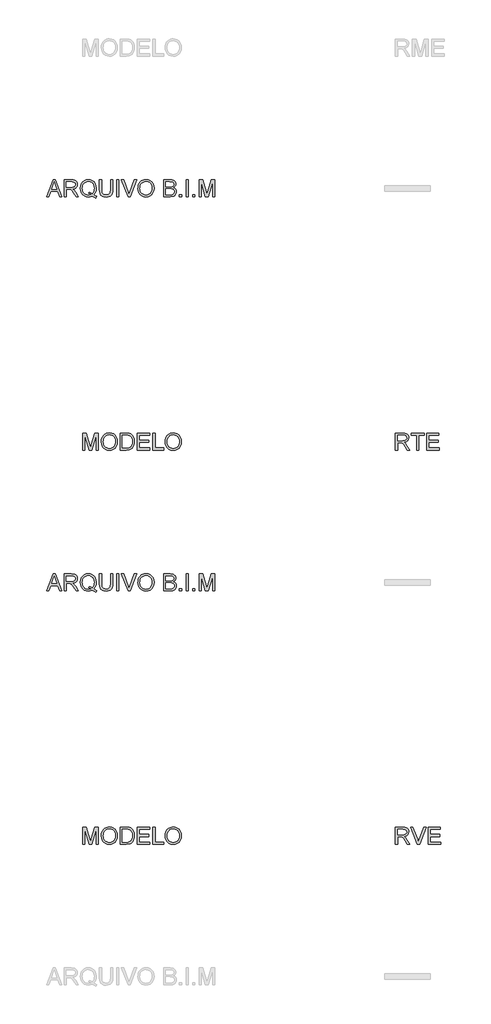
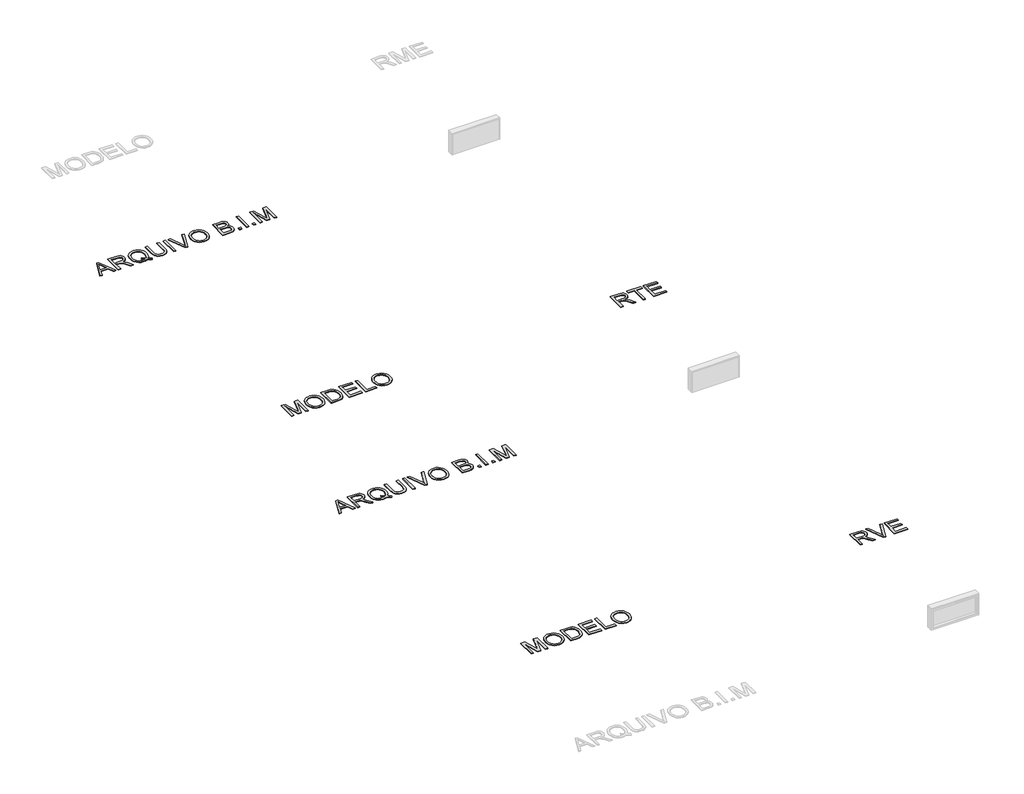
# One storey, part 3 of 15: 6 proxies.
"""IFC4 building model written with IfcOpenShell, lengths in millimetres."""

from ifc_helpers import new_model, si_unit, origin, origin_with_axes, place, context, project, spatial, polyline, outline, extrude, element, save

model = new_model("IFC4")

# Units and contexts
model_context = context("Model", 3, world=origin())
ifc_project = project(units=[si_unit("LENGTHUNIT", "METRE", prefix="MILLI")], contexts=[model_context])

# Site, building, storey
site = spatial("IfcSite", under=ifc_project)
building = spatial("IfcBuilding", under=site)
storey = spatial("IfcBuildingStorey", under=building, Name="Marelli - Linha REASONS - Planta Baixa", Elevation=0.0)

# Proxies
placement = place(None, origin())
element("IfcBuildingElementProxy", 1, Name="300mm Arial", ObjectType="300mm Arial", at=placement, inside=storey, context=model_context, shape_type="SweptSolid", body=[
    extrude(outline(polyline([(9390.580402, -147280.5663201), (9510.8778144, -146979.1973896), (9542.9571244, -146979.1973896), (9663.2545368, -147280.5663201), (9623.449705, -147280.5663201), (9588.9423738, -147186.3885293), (9464.8189886, -147186.3885293), (9430.3852339, -147280.5663201), (9390.580402, -147280.5663201)]), holes=[polyline([(9478.6513517, -147148.717413), (9575.1835872, -147148.717413), (9548.0338959, -147074.6259792), (9526.9174694, -147016.8685059), (9508.1554877, -147068.1512561), (9478.6513517, -147148.717413)])]), origin_with_axes(), (0.0, 0.0, 1.0), 10.0),
    extrude(outline(polyline([(9703.5008271, -147280.5663201), (9703.5008271, -146979.1973896), (9833.3631714, -146979.1973896), (9868.2659757, -146981.2299376), (9893.6590304, -146987.3275817), (9912.2186771, -146998.5847708), (9926.6212572, -147016.0959537), (9935.8642923, -147037.8101885), (9938.945304, -147061.6765329), (9933.8409413, -147091.3646099), (9918.5278533, -147115.9759154), (9906.9280741, -147126.0052983), (9892.5461874, -147134.0205273), (9855.4360911, -147144.0085235), (9876.8468232, -147160.1217548), (9907.3810288, -147198.8965171), (9957.6337094, -147280.5663201), (9913.855752, -147280.5663201), (9874.6395313, -147218.0999573), (9846.3126176, -147176.750021), (9826.4102017, -147157.2154871), (9808.4943485, -147150.0417882), (9786.642158, -147148.717413), (9741.1719434, -147148.717413), (9741.1719434, -147280.5663201), (9703.5008271, -147280.5663201)]), holes=[polyline([(9741.1719434, -147111.0462967), (9825.4904967, -147111.0462967), (9849.706329, -147109.7127245), (9868.4959019, -147105.7120078), (9882.6409647, -147098.7774322), (9892.9232664, -147088.6422832), (9899.1864574, -147076.3826157), (9901.2741877, -147063.0744845), (9897.2918651, -147044.6987789), (9885.3448973, -147029.8915286), (9864.7894908, -147020.1242616), (9834.9818522, -147016.8685059), (9741.1719434, -147016.8685059), (9741.1719434, -147111.0462967)])]), origin_with_axes(), (0.0, 0.0, 1.0), 10.0),
    extrude(outline(polyline([(10231.2643374, -147244.4403081), (10255.5997314, -147263.036743), (10277.9853508, -147275.8574305), (10267.8318077, -147303.4485802), (10236.7641732, -147289.0460001), (10205.8069033, -147268.205485), (10170.9500843, -147281.0077785), (10132.5983863, -147285.2752096), (10094.0627473, -147280.3547879), (10059.2427164, -147265.5935229), (10030.0788713, -147241.9203165), (10008.5117893, -147210.2640708), (9995.185264, -147172.3630282), (9990.7430889, -147129.9554312), (9995.176067, -147087.511046), (10008.4750011, -147049.0581805), (10029.9593096, -147016.9512794), (10058.9484108, -146993.5447874), (10093.639683, -146979.2525719), (10132.2305043, -146974.4885001), (10171.1248282, -146979.3629365), (10205.9908443, -146993.9862458), (10234.9339603, -147017.3835407), (10256.0595839, -147048.5799339), (10268.9722419, -147085.9199564), (10273.2764612, -147127.7481393), (10270.6644991, -147162.5313819), (10262.8286126, -147193.5990164), (10249.7136194, -147220.9142546), (10231.2643374, -147244.4403081)]), holes=[polyline([(10142.9726585, -147194.3347804), (10174.6472983, -147206.3093393), (10200.215097, -147222.9559996), (10215.6983305, -147205.4816049), (10226.7577829, -147184.1076609), (10233.3934544, -147158.8341679), (10235.6053449, -147129.6611256), (10232.478348, -147096.5057608), (10223.0973571, -147067.8201623), (10207.6922985, -147044.3308969), (10186.4930986, -147026.7645316), (10160.934497, -147015.8108452), (10132.4512335, -147012.1596164), (10110.966925, -147014.0059242), (10091.3956028, -147019.5448474), (10073.7372671, -147028.7763863), (10057.9919177, -147041.7005406), (10045.0516685, -147058.2897193), (10035.8086334, -147078.5163313), (10030.2628123, -147102.3803764), (10028.4142052, -147129.8818548), (10030.2421189, -147156.6659634), (10035.7258599, -147180.1437324), (10044.8654282, -147200.3151621), (10057.6608239, -147217.1802523), (10073.2981079, -147230.4906827), (10090.9633415, -147239.9981331), (10110.6565245, -147245.7026032), (10132.3776571, -147247.6040933), (10153.2917485, -147245.6727128), (10172.918253, -147239.8785714), (10153.6228423, -147229.853787), (10133.2605739, -147223.1767288), (10142.9726585, -147194.3347804)])]), origin_with_axes(), (0.0, 0.0, 1.0), 10.0),
    extrude(outline(polyline([(10527.5564963, -146979.1973896), (10565.2276126, -146979.1973896), (10565.2276126, -147153.0584205), (10562.6708327, -147193.7737604), (10555.0004931, -147225.1265034), (10540.6714894, -147249.3147446), (10518.1387172, -147268.5365788), (10487.3469942, -147281.0905519), (10448.2411381, -147285.2752096), (10409.9906077, -147281.6331779), (10379.4104168, -147270.7070826), (10356.4913685, -147252.8740029), (10341.2242657, -147228.5110178), (10332.6434182, -147195.8338995), (10329.7831357, -147153.0584205), (10329.7831357, -146979.1973896), (10367.454252, -146979.1973896), (10367.454252, -147151.7340454), (10369.3120561, -147185.588386), (10374.8854683, -147209.1604248), (10384.9838291, -147225.4851883), (10400.4164788, -147237.597703), (10420.5396239, -147245.1024957), (10444.709471, -147247.6040933), (10483.0243808, -147242.6560805), (10497.3671801, -147236.4710644), (10508.500209, -147227.812042), (10516.8373347, -147215.6351479), (10522.7924245, -147198.8965171), (10527.5564963, -147151.7340454), (10527.5564963, -146979.1973896)])), origin_with_axes(), (0.0, 0.0, 1.0), 10.0),
    extrude(outline(polyline([(10635.8609557, -147280.5663201), (10635.8609557, -146979.1973896), (10673.532072, -146979.1973896), (10673.532072, -147280.5663201), (10635.8609557, -147280.5663201)])), origin_with_axes(), (0.0, 0.0, 1.0), 10.0),
    extrude(outline(polyline([(10837.9017474, -147280.5663201), (10717.972217, -146979.1973896), (10758.2920837, -146979.1973896), (10838.563935, -147196.3213432), (10854.8243192, -147245.2496485), (10870.8639742, -147196.3213432), (10951.3565547, -146979.1973896), (10991.6764214, -146979.1973896), (10876.8236625, -147280.5663201), (10837.9017474, -147280.5663201)])), origin_with_axes(), (0.0, 0.0, 1.0), 10.0),
    extrude(outline(polyline([(11012.5721187, -147133.8549804), (11015.0829134, -147098.5061192), (11022.6152972, -147067.213157), (11035.1692703, -147039.9760937), (11052.7448326, -147016.7949295), (11074.288922, -146998.2858666), (11098.7484761, -146985.0651074), (11126.1234951, -146977.1326519), (11156.4139789, -146974.4885001), (11195.9428992, -146979.454907), (11231.3883295, -146994.3541278), (11260.8188891, -147018.1376988), (11282.3031976, -147049.7571563), (11295.4365848, -147087.68579), (11299.8143806, -147130.3968896), (11295.2066586, -147173.6782064), (11281.3834926, -147212.140269), (11259.1082378, -147243.8149088), (11229.1442493, -147266.733957), (11194.0023217, -147280.6398965), (11156.1932497, -147285.2752096), (11116.057324, -147280.1524528), (11080.4095587, -147264.7841825), (11051.0525754, -147240.5591531), (11029.7889961, -147208.8661192), (11016.8763381, -147172.3998164), (11012.5721187, -147133.8549804)]), holes=[polyline([(11050.2432351, -147134.2228624), (11052.126331, -147159.1974513), (11057.7756189, -147181.3669401), (11067.1910987, -147200.7313286), (11080.3727705, -147217.2906169), (11096.3963306, -147230.5527628), (11114.3374757, -147240.0257242), (11134.1962056, -147245.709501), (11155.9725205, -147247.6040933), (11178.1213158, -147245.6911069), (11198.2145706, -147239.9521478), (11216.2522846, -147230.3872159), (11232.2344581, -147216.9963113), (11245.3195608, -147200.0875351), (11254.6660627, -147179.9689885), (11260.2739639, -147156.6406715), (11262.1432643, -147130.102584), (11258.9426909, -147096.7540812), (11249.3409708, -147067.9305269), (11233.5864244, -147044.358488), (11211.9273719, -147026.7645316), (11185.7985532, -147015.8108452), (11156.6347081, -147012.1596164), (11135.6148506, -147013.9185522), (11116.1125063, -147019.1953595), (11098.1276752, -147027.9900385), (11081.6603574, -147040.302589), (11067.9153664, -147056.7262208), (11058.0975156, -147077.8541437), (11052.2068052, -147103.6863575), (11050.2432351, -147134.2228624)])]), origin_with_axes(), (0.0, 0.0, 1.0), 10.0),
    extrude(outline(polyline([(11469.334404, -147280.5663201), (11469.334404, -146979.1973896), (11584.3343156, -146979.1973896), (11615.9629702, -146981.4138786), (11640.6570491, -146988.0633457), (11659.5845778, -146999.3113377), (11673.9135815, -147015.3234015), (11682.9358874, -147034.1589597), (11685.9433227, -147053.8774346), (11683.414134, -147072.0232141), (11675.8265679, -147089.0837416), (11663.125442, -147104.0105535), (11645.2555741, -147115.7551862), (11666.6019268, -147126.9020107), (11682.3748674, -147143.8613707), (11692.1145432, -147165.5112261), (11695.3611018, -147190.7295368), (11693.1446128, -147211.7447958), (11686.4951457, -147231.2333445), (11676.5715289, -147247.8064284), (11664.5325906, -147260.0752929), (11649.7897196, -147268.9596431), (11631.7543048, -147275.3791839), (11583.4513989, -147280.5663201), (11469.334404, -147280.5663201)]), holes=[polyline([(11507.0055203, -147101.6285176), (11575.7994534, -147101.6285176), (11615.9721672, -147098.3911561), (11630.0344565, -147092.8085468), (11640.1420143, -147084.4484284), (11646.2396584, -147073.4395597), (11648.2722064, -147059.9106994), (11646.3776141, -147046.7773121), (11640.6938373, -147035.3361821), (11631.4783933, -147026.4058467), (11618.9887996, -147020.8048433), (11570.575529, -147016.8685059), (11507.0055203, -147016.8685059), (11507.0055203, -147101.6285176)]), polyline([(11507.0055203, -147242.8952038), (11584.2607393, -147242.8952038), (11612.2197709, -147241.4236758), (11635.8745832, -147233.2199073), (11651.5463562, -147216.4812765), (11656.1540782, -147204.6538704), (11657.6899855, -147191.0974188), (11655.8873637, -147175.3520694), (11650.4794984, -147161.814012), (11641.0341282, -147151.2282076), (11627.1189917, -147144.3396173), (11607.4097138, -147140.5596298), (11580.5819193, -147139.2996339), (11507.0055203, -147139.2996339), (11507.0055203, -147242.8952038)])]), origin_with_axes(), (0.0, 0.0, 1.0), 10.0),
    extrude(outline(polyline([(11751.8677763, -147280.5663201), (11751.8677763, -147242.8952038), (11789.5388926, -147242.8952038), (11789.5388926, -147280.5663201), (11751.8677763, -147280.5663201)])), origin_with_axes(), (0.0, 0.0, 1.0), 10.0),
    extrude(outline(polyline([(11869.5900147, -147280.5663201), (11869.5900147, -146979.1973896), (11907.261131, -146979.1973896), (11907.261131, -147280.5663201), (11869.5900147, -147280.5663201)])), origin_with_axes(), (0.0, 0.0, 1.0), 10.0),
    extrude(outline(polyline([(11987.3122532, -147280.5663201), (11987.3122532, -147242.8952038), (12024.9833695, -147242.8952038), (12024.9833695, -147280.5663201), (11987.3122532, -147280.5663201)])), origin_with_axes(), (0.0, 0.0, 1.0), 10.0),
    extrude(outline(polyline([(12100.3256021, -147280.5663201), (12100.3256021, -146979.1973896), (12165.1464096, -146979.1973896), (12226.803432, -147191.6124536), (12239.2378435, -147235.9790223), (12252.7023245, -147187.9336337), (12313.3292773, -146979.1973896), (12378.1500848, -146979.1973896), (12378.1500848, -147280.5663201), (12340.4789685, -147280.5663201), (12340.4789685, -147016.8685059), (12264.7688539, -147280.5663201), (12213.706833, -147280.5663201), (12137.9967184, -147016.8685059), (12137.9967184, -147280.5663201), (12100.3256021, -147280.5663201)])), origin_with_axes(), (0.0, 0.0, 1.0), 10.0),
])
element("IfcBuildingElementProxy", 2, Name="300mm Arial", ObjectType="300mm Arial", at=placement, inside=storey, context=model_context, shape_type="SweptSolid", body=[
    extrude(outline(polyline([(9390.580402, -154280.5663201), (9510.8778144, -153979.1973896), (9542.9571244, -153979.1973896), (9663.2545368, -154280.5663201), (9623.449705, -154280.5663201), (9588.9423738, -154186.3885293), (9464.8189886, -154186.3885293), (9430.3852339, -154280.5663201), (9390.580402, -154280.5663201)]), holes=[polyline([(9478.6513517, -154148.717413), (9575.1835872, -154148.717413), (9548.0338959, -154074.6259792), (9526.9174694, -154016.8685059), (9508.1554877, -154068.1512561), (9478.6513517, -154148.717413)])]), origin_with_axes(), (0.0, 0.0, 1.0), 10.0),
    extrude(outline(polyline([(9703.5008271, -154280.5663201), (9703.5008271, -153979.1973896), (9833.3631714, -153979.1973896), (9868.2659757, -153981.2299376), (9893.6590304, -153987.3275817), (9912.2186771, -153998.5847708), (9926.6212572, -154016.0959537), (9935.8642923, -154037.8101885), (9938.945304, -154061.6765329), (9933.8409413, -154091.3646099), (9918.5278533, -154115.9759154), (9906.9280741, -154126.0052983), (9892.5461874, -154134.0205273), (9855.4360911, -154144.0085235), (9876.8468232, -154160.1217548), (9907.3810288, -154198.8965171), (9957.6337094, -154280.5663201), (9913.855752, -154280.5663201), (9874.6395313, -154218.0999573), (9846.3126176, -154176.750021), (9826.4102017, -154157.2154871), (9808.4943485, -154150.0417882), (9786.642158, -154148.717413), (9741.1719434, -154148.717413), (9741.1719434, -154280.5663201), (9703.5008271, -154280.5663201)]), holes=[polyline([(9741.1719434, -154111.0462967), (9825.4904967, -154111.0462967), (9849.706329, -154109.7127245), (9868.4959019, -154105.7120078), (9882.6409647, -154098.7774322), (9892.9232664, -154088.6422832), (9899.1864574, -154076.3826157), (9901.2741877, -154063.0744845), (9897.2918651, -154044.6987789), (9885.3448973, -154029.8915286), (9864.7894908, -154020.1242616), (9834.9818522, -154016.8685059), (9741.1719434, -154016.8685059), (9741.1719434, -154111.0462967)])]), origin_with_axes(), (0.0, 0.0, 1.0), 10.0),
    extrude(outline(polyline([(10231.2643374, -154244.4403081), (10255.5997314, -154263.036743), (10277.9853508, -154275.8574305), (10267.8318077, -154303.4485802), (10236.7641732, -154289.0460001), (10205.8069033, -154268.205485), (10170.9500843, -154281.0077785), (10132.5983863, -154285.2752096), (10094.0627473, -154280.3547879), (10059.2427164, -154265.5935229), (10030.0788713, -154241.9203165), (10008.5117893, -154210.2640708), (9995.185264, -154172.3630282), (9990.7430889, -154129.9554312), (9995.176067, -154087.511046), (10008.4750011, -154049.0581805), (10029.9593096, -154016.9512794), (10058.9484108, -153993.5447874), (10093.639683, -153979.2525719), (10132.2305043, -153974.4885001), (10171.1248282, -153979.3629365), (10205.9908443, -153993.9862458), (10234.9339603, -154017.3835407), (10256.0595839, -154048.5799339), (10268.9722419, -154085.9199564), (10273.2764612, -154127.7481393), (10270.6644991, -154162.5313819), (10262.8286126, -154193.5990164), (10249.7136194, -154220.9142546), (10231.2643374, -154244.4403081)]), holes=[polyline([(10142.9726585, -154194.3347804), (10174.6472983, -154206.3093393), (10200.215097, -154222.9559996), (10215.6983305, -154205.4816049), (10226.7577829, -154184.1076609), (10233.3934544, -154158.8341679), (10235.6053449, -154129.6611256), (10232.478348, -154096.5057608), (10223.0973571, -154067.8201623), (10207.6922985, -154044.3308969), (10186.4930986, -154026.7645316), (10160.934497, -154015.8108452), (10132.4512335, -154012.1596164), (10110.966925, -154014.0059242), (10091.3956028, -154019.5448474), (10073.7372671, -154028.7763863), (10057.9919177, -154041.7005406), (10045.0516685, -154058.2897193), (10035.8086334, -154078.5163313), (10030.2628123, -154102.3803764), (10028.4142052, -154129.8818548), (10030.2421189, -154156.6659634), (10035.7258599, -154180.1437324), (10044.8654282, -154200.3151621), (10057.6608239, -154217.1802523), (10073.2981079, -154230.4906827), (10090.9633415, -154239.9981331), (10110.6565245, -154245.7026032), (10132.3776571, -154247.6040933), (10153.2917485, -154245.6727128), (10172.918253, -154239.8785714), (10153.6228423, -154229.853787), (10133.2605739, -154223.1767288), (10142.9726585, -154194.3347804)])]), origin_with_axes(), (0.0, 0.0, 1.0), 10.0),
    extrude(outline(polyline([(10527.5564963, -153979.1973896), (10565.2276126, -153979.1973896), (10565.2276126, -154153.0584205), (10562.6708327, -154193.7737604), (10555.0004931, -154225.1265034), (10540.6714894, -154249.3147446), (10518.1387172, -154268.5365788), (10487.3469942, -154281.0905519), (10448.2411381, -154285.2752096), (10409.9906077, -154281.6331779), (10379.4104168, -154270.7070826), (10356.4913685, -154252.8740029), (10341.2242657, -154228.5110178), (10332.6434182, -154195.8338995), (10329.7831357, -154153.0584205), (10329.7831357, -153979.1973896), (10367.454252, -153979.1973896), (10367.454252, -154151.7340454), (10369.3120561, -154185.588386), (10374.8854683, -154209.1604248), (10384.9838291, -154225.4851883), (10400.4164788, -154237.597703), (10420.5396239, -154245.1024957), (10444.709471, -154247.6040933), (10483.0243808, -154242.6560805), (10497.3671801, -154236.4710644), (10508.500209, -154227.812042), (10516.8373347, -154215.6351479), (10522.7924245, -154198.8965171), (10527.5564963, -154151.7340454), (10527.5564963, -153979.1973896)])), origin_with_axes(), (0.0, 0.0, 1.0), 10.0),
    extrude(outline(polyline([(10635.8609557, -154280.5663201), (10635.8609557, -153979.1973896), (10673.532072, -153979.1973896), (10673.532072, -154280.5663201), (10635.8609557, -154280.5663201)])), origin_with_axes(), (0.0, 0.0, 1.0), 10.0),
    extrude(outline(polyline([(10837.9017474, -154280.5663201), (10717.972217, -153979.1973896), (10758.2920837, -153979.1973896), (10838.563935, -154196.3213432), (10854.8243192, -154245.2496485), (10870.8639742, -154196.3213432), (10951.3565547, -153979.1973896), (10991.6764214, -153979.1973896), (10876.8236625, -154280.5663201), (10837.9017474, -154280.5663201)])), origin_with_axes(), (0.0, 0.0, 1.0), 10.0),
    extrude(outline(polyline([(11012.5721187, -154133.8549804), (11015.0829134, -154098.5061192), (11022.6152972, -154067.213157), (11035.1692703, -154039.9760937), (11052.7448326, -154016.7949295), (11074.288922, -153998.2858666), (11098.7484761, -153985.0651074), (11126.1234951, -153977.1326519), (11156.4139789, -153974.4885001), (11195.9428992, -153979.454907), (11231.3883295, -153994.3541278), (11260.8188891, -154018.1376988), (11282.3031976, -154049.7571563), (11295.4365848, -154087.68579), (11299.8143806, -154130.3968896), (11295.2066586, -154173.6782064), (11281.3834926, -154212.140269), (11259.1082378, -154243.8149088), (11229.1442493, -154266.733957), (11194.0023217, -154280.6398965), (11156.1932497, -154285.2752096), (11116.057324, -154280.1524528), (11080.4095587, -154264.7841825), (11051.0525754, -154240.5591531), (11029.7889961, -154208.8661192), (11016.8763381, -154172.3998164), (11012.5721187, -154133.8549804)]), holes=[polyline([(11050.2432351, -154134.2228624), (11052.126331, -154159.1974513), (11057.7756189, -154181.3669401), (11067.1910987, -154200.7313286), (11080.3727705, -154217.2906169), (11096.3963306, -154230.5527628), (11114.3374757, -154240.0257242), (11134.1962056, -154245.709501), (11155.9725205, -154247.6040933), (11178.1213158, -154245.6911069), (11198.2145706, -154239.9521478), (11216.2522846, -154230.3872159), (11232.2344581, -154216.9963113), (11245.3195608, -154200.0875351), (11254.6660627, -154179.9689885), (11260.2739639, -154156.6406715), (11262.1432643, -154130.102584), (11258.9426909, -154096.7540812), (11249.3409708, -154067.9305269), (11233.5864244, -154044.358488), (11211.9273719, -154026.7645316), (11185.7985532, -154015.8108452), (11156.6347081, -154012.1596164), (11135.6148506, -154013.9185522), (11116.1125063, -154019.1953595), (11098.1276752, -154027.9900385), (11081.6603574, -154040.302589), (11067.9153664, -154056.7262208), (11058.0975156, -154077.8541437), (11052.2068052, -154103.6863575), (11050.2432351, -154134.2228624)])]), origin_with_axes(), (0.0, 0.0, 1.0), 10.0),
    extrude(outline(polyline([(11469.334404, -154280.5663201), (11469.334404, -153979.1973896), (11584.3343156, -153979.1973896), (11615.9629702, -153981.4138786), (11640.6570491, -153988.0633457), (11659.5845778, -153999.3113377), (11673.9135815, -154015.3234015), (11682.9358874, -154034.1589597), (11685.9433227, -154053.8774346), (11683.414134, -154072.0232141), (11675.8265679, -154089.0837416), (11663.125442, -154104.0105535), (11645.2555741, -154115.7551862), (11666.6019268, -154126.9020107), (11682.3748674, -154143.8613707), (11692.1145432, -154165.5112261), (11695.3611018, -154190.7295368), (11693.1446128, -154211.7447958), (11686.4951457, -154231.2333445), (11676.5715289, -154247.8064284), (11664.5325906, -154260.0752929), (11649.7897196, -154268.9596431), (11631.7543048, -154275.3791839), (11583.4513989, -154280.5663201), (11469.334404, -154280.5663201)]), holes=[polyline([(11507.0055203, -154101.6285176), (11575.7994534, -154101.6285176), (11615.9721672, -154098.3911561), (11630.0344565, -154092.8085468), (11640.1420143, -154084.4484284), (11646.2396584, -154073.4395597), (11648.2722064, -154059.9106994), (11646.3776141, -154046.7773121), (11640.6938373, -154035.3361821), (11631.4783933, -154026.4058467), (11618.9887996, -154020.8048433), (11570.575529, -154016.8685059), (11507.0055203, -154016.8685059), (11507.0055203, -154101.6285176)]), polyline([(11507.0055203, -154242.8952038), (11584.2607393, -154242.8952038), (11612.2197709, -154241.4236758), (11635.8745832, -154233.2199073), (11651.5463562, -154216.4812765), (11656.1540782, -154204.6538704), (11657.6899855, -154191.0974188), (11655.8873637, -154175.3520694), (11650.4794984, -154161.814012), (11641.0341282, -154151.2282076), (11627.1189917, -154144.3396173), (11607.4097138, -154140.5596298), (11580.5819193, -154139.2996339), (11507.0055203, -154139.2996339), (11507.0055203, -154242.8952038)])]), origin_with_axes(), (0.0, 0.0, 1.0), 10.0),
    extrude(outline(polyline([(11751.8677763, -154280.5663201), (11751.8677763, -154242.8952038), (11789.5388926, -154242.8952038), (11789.5388926, -154280.5663201), (11751.8677763, -154280.5663201)])), origin_with_axes(), (0.0, 0.0, 1.0), 10.0),
    extrude(outline(polyline([(11869.5900147, -154280.5663201), (11869.5900147, -153979.1973896), (11907.261131, -153979.1973896), (11907.261131, -154280.5663201), (11869.5900147, -154280.5663201)])), origin_with_axes(), (0.0, 0.0, 1.0), 10.0),
    extrude(outline(polyline([(11987.3122532, -154280.5663201), (11987.3122532, -154242.8952038), (12024.9833695, -154242.8952038), (12024.9833695, -154280.5663201), (11987.3122532, -154280.5663201)])), origin_with_axes(), (0.0, 0.0, 1.0), 10.0),
    extrude(outline(polyline([(12100.3256021, -154280.5663201), (12100.3256021, -153979.1973896), (12165.1464096, -153979.1973896), (12226.803432, -154191.6124536), (12239.2378435, -154235.9790223), (12252.7023245, -154187.9336337), (12313.3292773, -153979.1973896), (12378.1500848, -153979.1973896), (12378.1500848, -154280.5663201), (12340.4789685, -154280.5663201), (12340.4789685, -154016.8685059), (12264.7688539, -154280.5663201), (12213.706833, -154280.5663201), (12137.9967184, -154016.8685059), (12137.9967184, -154280.5663201), (12100.3256021, -154280.5663201)])), origin_with_axes(), (0.0, 0.0, 1.0), 10.0),
])
element("IfcBuildingElementProxy", 3, Name="300mm Arial", ObjectType="300mm Arial", at=placement, inside=storey, context=model_context, shape_type="SweptSolid", body=[
    extrude(outline(polyline([(10033.1230948, -151780.5663201), (10033.1230948, -151479.1973896), (10097.9439023, -151479.1973896), (10159.6009247, -151691.6124536), (10172.0353362, -151735.9790223), (10185.4998172, -151687.9336337), (10246.12677, -151479.1973896), (10310.9475775, -151479.1973896), (10310.9475775, -151780.5663201), (10273.2764612, -151780.5663201), (10273.2764612, -151516.8685059), (10197.5663466, -151780.5663201), (10146.5043257, -151780.5663201), (10070.7942111, -151516.8685059), (10070.7942111, -151780.5663201), (10033.1230948, -151780.5663201)])), origin_with_axes(), (0.0, 0.0, 1.0), 10.0),
    extrude(outline(polyline([(10362.7453625, -151633.8549804), (10365.2561571, -151598.5061192), (10372.7885409, -151567.213157), (10385.342514, -151539.9760937), (10402.9180763, -151516.7949295), (10424.4621657, -151498.2858666), (10448.9217198, -151485.0651074), (10476.2967388, -151477.1326519), (10506.5872226, -151474.4885001), (10546.116143, -151479.454907), (10581.5615732, -151494.3541278), (10610.9921328, -151518.1376988), (10632.4764413, -151549.7571563), (10645.6098286, -151587.68579), (10649.9876243, -151630.3968896), (10645.3799023, -151673.6782064), (10631.5567363, -151712.140269), (10609.2814815, -151743.8149088), (10579.317493, -151766.733957), (10544.1755654, -151780.6398965), (10506.3664934, -151785.2752096), (10466.2305677, -151780.1524528), (10430.5828024, -151764.7841825), (10401.2258192, -151740.5591531), (10379.9622398, -151708.8661192), (10367.0495818, -151672.3998164), (10362.7453625, -151633.8549804)]), holes=[polyline([(10400.4164788, -151634.2228624), (10402.2995747, -151659.1974513), (10407.9488626, -151681.3669401), (10417.3643424, -151700.7313286), (10430.5460142, -151717.2906169), (10446.5695743, -151730.5527628), (10464.5107194, -151740.0257242), (10484.3694493, -151745.709501), (10506.1457642, -151747.6040933), (10528.2945596, -151745.6911069), (10548.3878143, -151739.9521478), (10566.4255284, -151730.3872159), (10582.4077018, -151716.9963113), (10595.4928045, -151700.0875351), (10604.8393064, -151679.9689885), (10610.4472076, -151656.6406715), (10612.316508, -151630.102584), (10609.1159346, -151596.7540812), (10599.5142146, -151567.9305269), (10583.7596681, -151544.358488), (10562.1006157, -151526.7645316), (10535.9717969, -151515.8108452), (10506.8079518, -151512.1596164), (10485.7880943, -151513.9185522), (10466.28575, -151519.1953595), (10448.300919, -151527.9900385), (10431.8336012, -151540.302589), (10418.0886101, -151556.7262208), (10408.2707594, -151577.8541437), (10402.3800489, -151603.6863575), (10400.4164788, -151634.2228624)])]), origin_with_axes(), (0.0, 0.0, 1.0), 10.0),
    extrude(outline(polyline([(10701.7854092, -151780.5663201), (10701.7854092, -151479.1973896), (10805.7488611, -151479.1973896), (10859.5332088, -151483.5383972), (10883.555903, -151491.9077126), (10903.826201, -151505.0962821), (10924.666716, -151528.0521186), (10939.5107545, -151556.5997614), (10948.3951047, -151590.1873876), (10951.3565547, -151628.2631741), (10949.3515979, -151660.6091985), (10943.3367273, -151689.0740679), (10934.1764656, -151713.3082943), (10922.7353355, -151732.9623899), (10909.5651601, -151748.477813), (10895.2177623, -151760.2960221), (10878.745846, -151769.0608107), (10859.202115, -151775.4159721), (10810.7520562, -151780.5663201), (10701.7854092, -151780.5663201)]), holes=[polyline([(10739.4565255, -151742.8952038), (10806.1167431, -151742.8952038), (10833.6894986, -151741.5340404), (10854.60359, -151737.4505502), (10870.3857276, -151730.8838566), (10882.5626217, -151722.0730828), (10895.6500236, -151705.7667134), (10905.48167, -151684.6594839), (10911.6344963, -151658.6594239), (10913.6854384, -151627.6745629), (10909.6663276, -151586.6189322), (10897.6089953, -151556.3054558), (10879.7943096, -151535.4833349), (10858.5031392, -151522.9017706), (10836.8348897, -151518.3768221), (10805.0866735, -151516.8685059), (10739.4565255, -151516.8685059), (10739.4565255, -151742.8952038)])]), origin_with_axes(), (0.0, 0.0, 1.0), 10.0),
    extrude(outline(polyline([(11003.1543397, -151780.5663201), (11003.1543397, -151479.1973896), (11219.7632584, -151479.1973896), (11219.7632584, -151516.8685059), (11040.825456, -151516.8685059), (11040.825456, -151606.3374072), (11210.3454794, -151606.3374072), (11210.3454794, -151644.0085235), (11040.825456, -151644.0085235), (11040.825456, -151742.8952038), (11224.472148, -151742.8952038), (11224.472148, -151780.5663201), (11003.1543397, -151780.5663201)])), origin_with_axes(), (0.0, 0.0, 1.0), 10.0),
    extrude(outline(polyline([(11280.9788224, -151780.5663201), (11280.9788224, -151479.1973896), (11318.6499387, -151479.1973896), (11318.6499387, -151742.8952038), (11469.334404, -151742.8952038), (11469.334404, -151780.5663201), (11280.9788224, -151780.5663201)])), origin_with_axes(), (0.0, 0.0, 1.0), 10.0),
    extrude(outline(polyline([(11497.5877412, -151633.8549804), (11500.0985358, -151598.5061192), (11507.6309197, -151567.213157), (11520.1848927, -151539.9760937), (11537.7604551, -151516.7949295), (11559.3045444, -151498.2858666), (11583.7640986, -151485.0651074), (11611.1391175, -151477.1326519), (11641.4296013, -151474.4885001), (11680.9585217, -151479.454907), (11716.4039519, -151494.3541278), (11745.8345115, -151518.1376988), (11767.3188201, -151549.7571563), (11780.4522073, -151587.68579), (11784.830003, -151630.3968896), (11780.222281, -151673.6782064), (11766.3991151, -151712.140269), (11744.1238603, -151743.8149088), (11714.1598717, -151766.733957), (11679.0179442, -151780.6398965), (11641.2088721, -151785.2752096), (11601.0729464, -151780.1524528), (11565.4251811, -151764.7841825), (11536.0681979, -151740.5591531), (11514.8046186, -151708.8661192), (11501.8919605, -151672.3998164), (11497.5877412, -151633.8549804)]), holes=[polyline([(11535.2588575, -151634.2228624), (11537.1419535, -151659.1974513), (11542.7912413, -151681.3669401), (11552.2067212, -151700.7313286), (11565.3883929, -151717.2906169), (11581.4119531, -151730.5527628), (11599.3530981, -151740.0257242), (11619.2118281, -151745.709501), (11640.9881429, -151747.6040933), (11663.1369383, -151745.6911069), (11683.230193, -151739.9521478), (11701.2679071, -151730.3872159), (11717.2500805, -151716.9963113), (11730.3351832, -151700.0875351), (11739.6816852, -151679.9689885), (11745.2895863, -151656.6406715), (11747.1588867, -151630.102584), (11743.9583134, -151596.7540812), (11734.3565933, -151567.9305269), (11718.6020468, -151544.358488), (11696.9429944, -151526.7645316), (11670.8141757, -151515.8108452), (11641.6503305, -151512.1596164), (11620.630473, -151513.9185522), (11601.1281287, -151519.1953595), (11583.1432977, -151527.9900385), (11566.6759799, -151540.302589), (11552.9309888, -151556.7262208), (11543.1131381, -151577.8541437), (11537.2224276, -151603.6863575), (11535.2588575, -151634.2228624)])]), origin_with_axes(), (0.0, 0.0, 1.0), 10.0),
])
element("IfcBuildingElementProxy", 4, Name="300mm Arial", ObjectType="300mm Arial", at=placement, inside=storey, context=model_context, shape_type="SweptSolid", body=[
    extrude(outline(polyline([(10033.1230948, -158780.5663201), (10033.1230948, -158479.1973896), (10097.9439023, -158479.1973896), (10159.6009247, -158691.6124536), (10172.0353362, -158735.9790223), (10185.4998172, -158687.9336337), (10246.12677, -158479.1973896), (10310.9475775, -158479.1973896), (10310.9475775, -158780.5663201), (10273.2764612, -158780.5663201), (10273.2764612, -158516.8685059), (10197.5663466, -158780.5663201), (10146.5043257, -158780.5663201), (10070.7942111, -158516.8685059), (10070.7942111, -158780.5663201), (10033.1230948, -158780.5663201)])), origin_with_axes(), (0.0, 0.0, 1.0), 10.0),
    extrude(outline(polyline([(10362.7453625, -158633.8549804), (10365.2561571, -158598.5061192), (10372.7885409, -158567.213157), (10385.342514, -158539.9760937), (10402.9180763, -158516.7949295), (10424.4621657, -158498.2858666), (10448.9217198, -158485.0651074), (10476.2967388, -158477.1326519), (10506.5872226, -158474.4885001), (10546.116143, -158479.454907), (10581.5615732, -158494.3541278), (10610.9921328, -158518.1376988), (10632.4764413, -158549.7571563), (10645.6098286, -158587.68579), (10649.9876243, -158630.3968896), (10645.3799023, -158673.6782064), (10631.5567363, -158712.140269), (10609.2814815, -158743.8149088), (10579.317493, -158766.733957), (10544.1755654, -158780.6398965), (10506.3664934, -158785.2752096), (10466.2305677, -158780.1524528), (10430.5828024, -158764.7841825), (10401.2258192, -158740.5591531), (10379.9622398, -158708.8661192), (10367.0495818, -158672.3998164), (10362.7453625, -158633.8549804)]), holes=[polyline([(10400.4164788, -158634.2228624), (10402.2995747, -158659.1974513), (10407.9488626, -158681.3669401), (10417.3643424, -158700.7313286), (10430.5460142, -158717.2906169), (10446.5695743, -158730.5527628), (10464.5107194, -158740.0257242), (10484.3694493, -158745.709501), (10506.1457642, -158747.6040933), (10528.2945596, -158745.6911069), (10548.3878143, -158739.9521478), (10566.4255284, -158730.3872159), (10582.4077018, -158716.9963113), (10595.4928045, -158700.0875351), (10604.8393064, -158679.9689885), (10610.4472076, -158656.6406715), (10612.316508, -158630.102584), (10609.1159346, -158596.7540812), (10599.5142146, -158567.9305269), (10583.7596681, -158544.358488), (10562.1006157, -158526.7645316), (10535.9717969, -158515.8108452), (10506.8079518, -158512.1596164), (10485.7880943, -158513.9185522), (10466.28575, -158519.1953595), (10448.300919, -158527.9900385), (10431.8336012, -158540.302589), (10418.0886101, -158556.7262208), (10408.2707594, -158577.8541437), (10402.3800489, -158603.6863575), (10400.4164788, -158634.2228624)])]), origin_with_axes(), (0.0, 0.0, 1.0), 10.0),
    extrude(outline(polyline([(10701.7854092, -158780.5663201), (10701.7854092, -158479.1973896), (10805.7488611, -158479.1973896), (10859.5332088, -158483.5383972), (10883.555903, -158491.9077126), (10903.826201, -158505.0962821), (10924.666716, -158528.0521186), (10939.5107545, -158556.5997614), (10948.3951047, -158590.1873876), (10951.3565547, -158628.2631741), (10949.3515979, -158660.6091985), (10943.3367273, -158689.0740679), (10934.1764656, -158713.3082943), (10922.7353355, -158732.9623899), (10909.5651601, -158748.477813), (10895.2177623, -158760.2960221), (10878.745846, -158769.0608107), (10859.202115, -158775.4159721), (10810.7520562, -158780.5663201), (10701.7854092, -158780.5663201)]), holes=[polyline([(10739.4565255, -158742.8952038), (10806.1167431, -158742.8952038), (10833.6894986, -158741.5340404), (10854.60359, -158737.4505502), (10870.3857276, -158730.8838566), (10882.5626217, -158722.0730828), (10895.6500236, -158705.7667134), (10905.48167, -158684.6594839), (10911.6344963, -158658.6594239), (10913.6854384, -158627.6745629), (10909.6663276, -158586.6189322), (10897.6089953, -158556.3054558), (10879.7943096, -158535.4833349), (10858.5031392, -158522.9017706), (10836.8348897, -158518.3768221), (10805.0866735, -158516.8685059), (10739.4565255, -158516.8685059), (10739.4565255, -158742.8952038)])]), origin_with_axes(), (0.0, 0.0, 1.0), 10.0),
    extrude(outline(polyline([(11003.1543397, -158780.5663201), (11003.1543397, -158479.1973896), (11219.7632584, -158479.1973896), (11219.7632584, -158516.8685059), (11040.825456, -158516.8685059), (11040.825456, -158606.3374072), (11210.3454794, -158606.3374072), (11210.3454794, -158644.0085235), (11040.825456, -158644.0085235), (11040.825456, -158742.8952038), (11224.472148, -158742.8952038), (11224.472148, -158780.5663201), (11003.1543397, -158780.5663201)])), origin_with_axes(), (0.0, 0.0, 1.0), 10.0),
    extrude(outline(polyline([(11280.9788224, -158780.5663201), (11280.9788224, -158479.1973896), (11318.6499387, -158479.1973896), (11318.6499387, -158742.8952038), (11469.334404, -158742.8952038), (11469.334404, -158780.5663201), (11280.9788224, -158780.5663201)])), origin_with_axes(), (0.0, 0.0, 1.0), 10.0),
    extrude(outline(polyline([(11497.5877412, -158633.8549804), (11500.0985358, -158598.5061192), (11507.6309197, -158567.213157), (11520.1848927, -158539.9760937), (11537.7604551, -158516.7949295), (11559.3045444, -158498.2858666), (11583.7640986, -158485.0651074), (11611.1391175, -158477.1326519), (11641.4296013, -158474.4885001), (11680.9585217, -158479.454907), (11716.4039519, -158494.3541278), (11745.8345115, -158518.1376988), (11767.3188201, -158549.7571563), (11780.4522073, -158587.68579), (11784.830003, -158630.3968896), (11780.222281, -158673.6782064), (11766.3991151, -158712.140269), (11744.1238603, -158743.8149088), (11714.1598717, -158766.733957), (11679.0179442, -158780.6398965), (11641.2088721, -158785.2752096), (11601.0729464, -158780.1524528), (11565.4251811, -158764.7841825), (11536.0681979, -158740.5591531), (11514.8046186, -158708.8661192), (11501.8919605, -158672.3998164), (11497.5877412, -158633.8549804)]), holes=[polyline([(11535.2588575, -158634.2228624), (11537.1419535, -158659.1974513), (11542.7912413, -158681.3669401), (11552.2067212, -158700.7313286), (11565.3883929, -158717.2906169), (11581.4119531, -158730.5527628), (11599.3530981, -158740.0257242), (11619.2118281, -158745.709501), (11640.9881429, -158747.6040933), (11663.1369383, -158745.6911069), (11683.230193, -158739.9521478), (11701.2679071, -158730.3872159), (11717.2500805, -158716.9963113), (11730.3351832, -158700.0875351), (11739.6816852, -158679.9689885), (11745.2895863, -158656.6406715), (11747.1588867, -158630.102584), (11743.9583134, -158596.7540812), (11734.3565933, -158567.9305269), (11718.6020468, -158544.358488), (11696.9429944, -158526.7645316), (11670.8141757, -158515.8108452), (11641.6503305, -158512.1596164), (11620.630473, -158513.9185522), (11601.1281287, -158519.1953595), (11583.1432977, -158527.9900385), (11566.6759799, -158540.302589), (11552.9309888, -158556.7262208), (11543.1131381, -158577.8541437), (11537.2224276, -158603.6863575), (11535.2588575, -158634.2228624)])]), origin_with_axes(), (0.0, 0.0, 1.0), 10.0),
])
element("IfcBuildingElementProxy", 5, Name="300mm Arial", ObjectType="300mm Arial", at=placement, inside=storey, context=model_context, shape_type="SweptSolid", body=[
    extrude(outline(polyline([(15588.7720603, -151780.5663201), (15588.7720603, -151479.1973896), (15718.6344046, -151479.1973896), (15753.5372089, -151481.2299376), (15778.9302636, -151487.3275817), (15797.4899103, -151498.5847708), (15811.8924904, -151516.0959537), (15821.1355255, -151537.8101885), (15824.2165372, -151561.6765329), (15819.1121745, -151591.3646099), (15803.7990865, -151615.9759154), (15792.1993073, -151626.0052983), (15777.8174206, -151634.0205273), (15740.7073243, -151644.0085235), (15762.1180564, -151660.1217548), (15792.652262, -151698.8965171), (15842.9049426, -151780.5663201), (15799.1269851, -151780.5663201), (15759.9107645, -151718.0999573), (15731.5838508, -151676.750021), (15711.6814349, -151657.2154871), (15693.7655817, -151650.0417882), (15671.9133912, -151648.717413), (15626.4431766, -151648.717413), (15626.4431766, -151780.5663201), (15588.7720603, -151780.5663201)]), holes=[polyline([(15626.4431766, -151611.0462967), (15710.7617299, -151611.0462967), (15734.9775622, -151609.7127245), (15753.7671351, -151605.7120078), (15767.9121979, -151598.7774322), (15778.1944996, -151588.6422832), (15784.4576906, -151576.3826157), (15786.5454209, -151563.0744845), (15782.5630983, -151544.6987789), (15770.6161305, -151529.8915286), (15750.060724, -151520.1242616), (15720.2530854, -151516.8685059), (15626.4431766, -151516.8685059), (15626.4431766, -151611.0462967)])]), origin_with_axes(), (0.0, 0.0, 1.0), 10.0),
    extrude(outline(polyline([(15965.4832234, -151780.5663201), (15965.4832234, -151516.8685059), (15866.5965431, -151516.8685059), (15866.5965431, -151479.1973896), (16102.04102, -151479.1973896), (16102.04102, -151516.8685059), (16003.1543397, -151516.8685059), (16003.1543397, -151780.5663201), (15965.4832234, -151780.5663201)])), origin_with_axes(), (0.0, 0.0, 1.0), 10.0),
    extrude(outline(polyline([(16144.4210258, -151780.5663201), (16144.4210258, -151479.1973896), (16361.0299446, -151479.1973896), (16361.0299446, -151516.8685059), (16182.0921421, -151516.8685059), (16182.0921421, -151606.3374072), (16351.6121655, -151606.3374072), (16351.6121655, -151644.0085235), (16182.0921421, -151644.0085235), (16182.0921421, -151742.8952038), (16365.7388341, -151742.8952038), (16365.7388341, -151780.5663201), (16144.4210258, -151780.5663201)])), origin_with_axes(), (0.0, 0.0, 1.0), 10.0),
])
element("IfcBuildingElementProxy", 6, Name="300mm Arial", ObjectType="300mm Arial", at=placement, inside=storey, context=model_context, shape_type="SweptSolid", body=[
    extrude(outline(polyline([(15588.7720603, -158780.5663201), (15588.7720603, -158479.1973896), (15718.6344046, -158479.1973896), (15753.5372089, -158481.2299376), (15778.9302636, -158487.3275817), (15797.4899103, -158498.5847708), (15811.8924904, -158516.0959537), (15821.1355255, -158537.8101885), (15824.2165372, -158561.6765329), (15819.1121745, -158591.3646099), (15803.7990865, -158615.9759154), (15792.1993073, -158626.0052983), (15777.8174206, -158634.0205273), (15740.7073243, -158644.0085235), (15762.1180564, -158660.1217548), (15792.652262, -158698.8965171), (15842.9049426, -158780.5663201), (15799.1269851, -158780.5663201), (15759.9107645, -158718.0999573), (15731.5838508, -158676.750021), (15711.6814349, -158657.2154871), (15693.7655817, -158650.0417882), (15671.9133912, -158648.717413), (15626.4431766, -158648.717413), (15626.4431766, -158780.5663201), (15588.7720603, -158780.5663201)]), holes=[polyline([(15626.4431766, -158611.0462967), (15710.7617299, -158611.0462967), (15734.9775622, -158609.7127245), (15753.7671351, -158605.7120078), (15767.9121979, -158598.7774322), (15778.1944996, -158588.6422832), (15784.4576906, -158576.3826157), (15786.5454209, -158563.0744845), (15782.5630983, -158544.6987789), (15770.6161305, -158529.8915286), (15750.060724, -158520.1242616), (15720.2530854, -158516.8685059), (15626.4431766, -158516.8685059), (15626.4431766, -158611.0462967)])]), origin_with_axes(), (0.0, 0.0, 1.0), 10.0),
    extrude(outline(polyline([(15979.1684336, -158780.5663201), (15859.2389032, -158479.1973896), (15899.5587698, -158479.1973896), (15979.8306212, -158696.3213432), (15996.0910054, -158745.2496485), (16012.1306604, -158696.3213432), (16092.6232409, -158479.1973896), (16132.9431076, -158479.1973896), (16018.0903487, -158780.5663201), (15979.1684336, -158780.5663201)])), origin_with_axes(), (0.0, 0.0, 1.0), 10.0),
    extrude(outline(polyline([(16167.9654735, -158780.5663201), (16167.9654735, -158479.1973896), (16384.5743923, -158479.1973896), (16384.5743923, -158516.8685059), (16205.6365898, -158516.8685059), (16205.6365898, -158606.3374072), (16375.1566132, -158606.3374072), (16375.1566132, -158644.0085235), (16205.6365898, -158644.0085235), (16205.6365898, -158742.8952038), (16389.2832818, -158742.8952038), (16389.2832818, -158780.5663201), (16167.9654735, -158780.5663201)])), origin_with_axes(), (0.0, 0.0, 1.0), 10.0),
])

save(model, "model.ifc")
